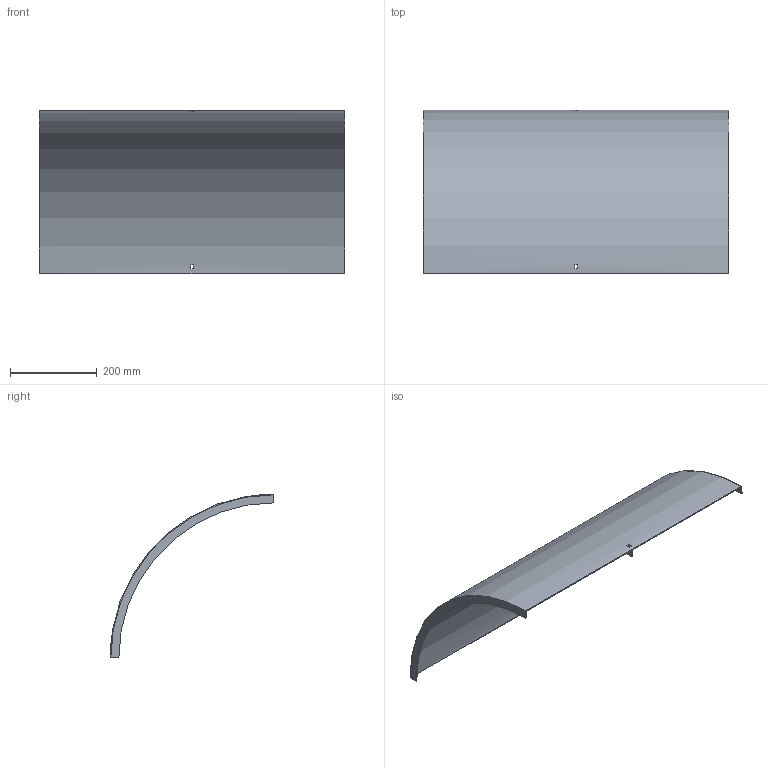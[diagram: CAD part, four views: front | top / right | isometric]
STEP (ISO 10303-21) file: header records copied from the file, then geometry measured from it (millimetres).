
FILE_DESCRIPTION (( 'STEP AP214' ), '1' );
FILE_NAME ('B2_33N3C700.step', '2025-02-21T10:46:43', ( '' ), ( '' ), 'SwSTEP 2.0', 'SolidWorks 2023', '' );
FILE_SCHEMA (( 'AUTOMOTIVE_DESIGN' ));
Length unit declared in the file: millimetre
Products named in the file (1): B2_33N3C700
Bounding box: 703 x 376.5 x 376.5 mm (x, y, z)
Volume: 654104.2 mm3; surface area: 876135.5 mm2
Topology: 1 solids, 1 shells, 18 faces, 48 edges, 32 vertices
Faces by surface type: plane 14, cylinder 4
Entity records: 599 total; most frequent: DIRECTION 102, CARTESIAN_POINT 99, ORIENTED_EDGE 96, EDGE_CURVE 48, AXIS2_PLACEMENT_3D 35, VECTOR 32, VERTEX_POINT 32, LINE 32
